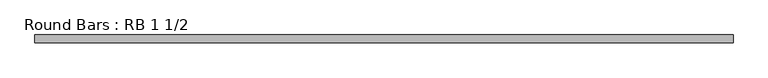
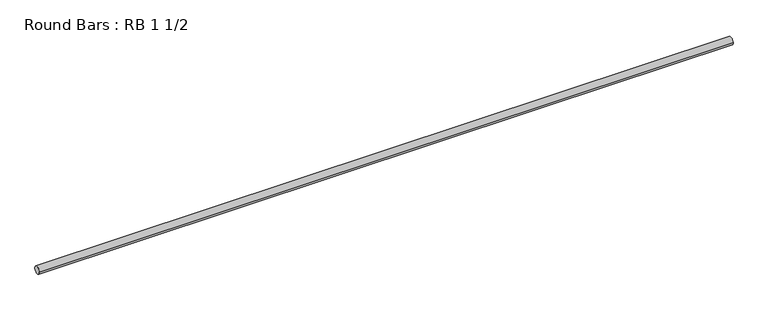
"""IFC4 building model written with IfcOpenShell, lengths in millimetres: member geometry, Round Bars : RB 1 1/2."""

from ifc_helpers import new_model, si_unit, point, frame, origin, origin_2d, place, context, project, spatial, circle_curve, trimmed, segment, composite_curve, outline, extrude, source, transform, mapped, element, save


def round_bars_rb_1_1_2_01b69033(model_context):
    return source(origin(), model_context, "Body", "SweptSolid", [
        extrude(outline(composite_curve([segment(trimmed(circle_curve(origin_2d(), 19.05), [point((19.05, 0.0))], [point((-19.05, 0.0))], False, "CARTESIAN"), True, "CONTINUOUS"), segment(trimmed(circle_curve(origin_2d(), 19.05), [point((-19.05, 0.0))], [point((19.05, 0.0))], False, "CARTESIAN"), True, "CONTINUOUS")], self_intersect=False)), frame((-1783.3600763, 0.0, 0.0), z_axis=(1.0, 0.0, 0.0), x_axis=(0.0, 1.0, 0.0)), (0.0, 0.0, 1.0), 3441.9268815),
    ])


if __name__ == "__main__":
    model = new_model("IFC4")
    model_context = context("Model", 3, world=origin())
    ifc_project = project(units=[si_unit("LENGTHUNIT", "METRE", prefix="MILLI")], contexts=[model_context])
    site = spatial("IfcSite", under=ifc_project)
    building = spatial("IfcBuilding", under=site)
    placement = place(None, origin())
    round_bars_rb_1_1_2_shape = round_bars_rb_1_1_2_01b69033(model_context)
    element("IfcMember", 1, ObjectType="Round Bars : RB 1 1/2", at=placement, inside=building, context=model_context, shape_type="MappedRepresentation", body=[
        mapped(round_bars_rb_1_1_2_shape, transform((0.0, 0.0, 0.0), x_axis=(1.0, 0.0, 0.0), y_axis=(0.0, 1.0, 0.0), z_axis=(0.0, 0.0, 1.0))),
    ])
    save(model, "model.ifc")
